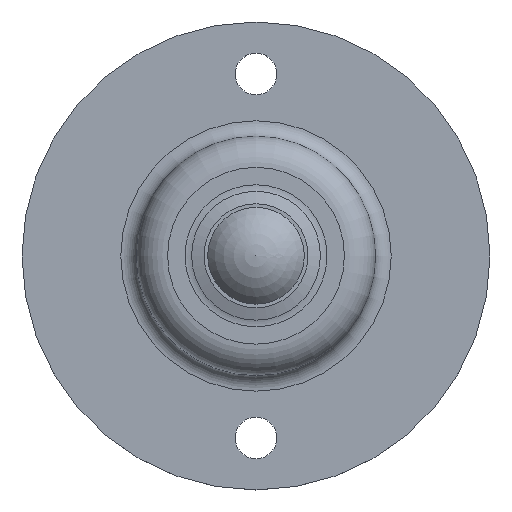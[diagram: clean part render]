
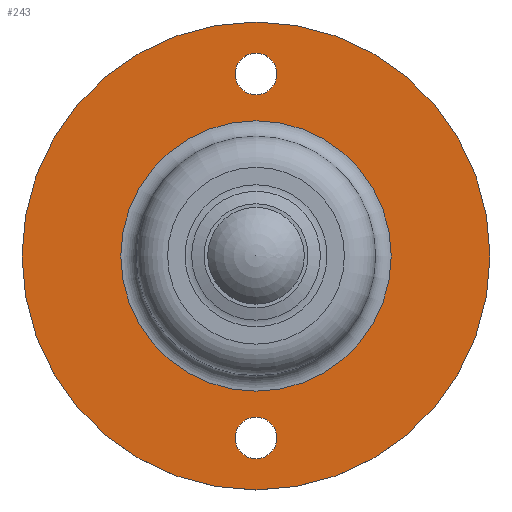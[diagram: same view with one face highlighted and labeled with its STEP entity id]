
A CAD part, top view. The second image highlights one B-rep face of the part: STEP entity #243.
In plain terms, the highlighted planar face has unit normal (0, 0, 1).
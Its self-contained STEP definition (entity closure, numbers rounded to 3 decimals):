
#43=PLANE('',#267);
#50=FACE_BOUND('',#94,.T.);
#51=FACE_BOUND('',#95,.T.);
#52=FACE_BOUND('',#96,.T.);
#72=FACE_OUTER_BOUND('',#93,.T.);
#93=EDGE_LOOP('',(#198));
#94=EDGE_LOOP('',(#199));
#95=EDGE_LOOP('',(#200));
#96=EDGE_LOOP('',(#201));
#133=CIRCLE('',#265,13.);
#135=CIRCLE('',#268,22.5);
#136=CIRCLE('',#269,2.);
#137=CIRCLE('',#270,2.);
#154=VERTEX_POINT('',#391);
#156=VERTEX_POINT('',#396);
#157=VERTEX_POINT('',#398);
#158=VERTEX_POINT('',#400);
#175=EDGE_CURVE('',#154,#154,#133,.T.);
#177=EDGE_CURVE('',#156,#156,#135,.T.);
#178=EDGE_CURVE('',#157,#157,#136,.T.);
#179=EDGE_CURVE('',#158,#158,#137,.T.);
#198=ORIENTED_EDGE('',*,*,#177,.F.);
#199=ORIENTED_EDGE('',*,*,#178,.F.);
#200=ORIENTED_EDGE('',*,*,#179,.F.);
#201=ORIENTED_EDGE('',*,*,#175,.F.);
#243=ADVANCED_FACE('',(#72,#50,#51,#52),#43,.F.);
#265=AXIS2_PLACEMENT_3D('',#392,#309,#310);
#267=AXIS2_PLACEMENT_3D('',#395,#313,#314);
#268=AXIS2_PLACEMENT_3D('',#397,#315,#316);
#269=AXIS2_PLACEMENT_3D('',#399,#317,#318);
#270=AXIS2_PLACEMENT_3D('',#401,#319,#320);
#309=DIRECTION('center_axis',(0.,0.,1.));
#310=DIRECTION('ref_axis',(-1.,0.,0.));
#313=DIRECTION('center_axis',(0.,0.,-1.));
#314=DIRECTION('ref_axis',(-1.,0.,0.));
#315=DIRECTION('center_axis',(0.,0.,-1.));
#316=DIRECTION('ref_axis',(0.,1.,0.));
#317=DIRECTION('center_axis',(0.,0.,1.));
#318=DIRECTION('ref_axis',(1.,0.,0.));
#319=DIRECTION('center_axis',(0.,0.,1.));
#320=DIRECTION('ref_axis',(-1.,0.,0.));
#391=CARTESIAN_POINT('',(13.,0.,1.5));
#392=CARTESIAN_POINT('Origin',(0.,0.,1.5));
#395=CARTESIAN_POINT('Origin',(0.,0.,
1.5));
#396=CARTESIAN_POINT('',(22.5,0.,1.5));
#397=CARTESIAN_POINT('Origin',(0.,0.,1.5));
#398=CARTESIAN_POINT('',(-2.,17.5,1.5));
#399=CARTESIAN_POINT('Origin',(0.,17.5,1.5));
#400=CARTESIAN_POINT('',(2.,-17.5,1.5));
#401=CARTESIAN_POINT('Origin',(0.,-17.5,1.5));
